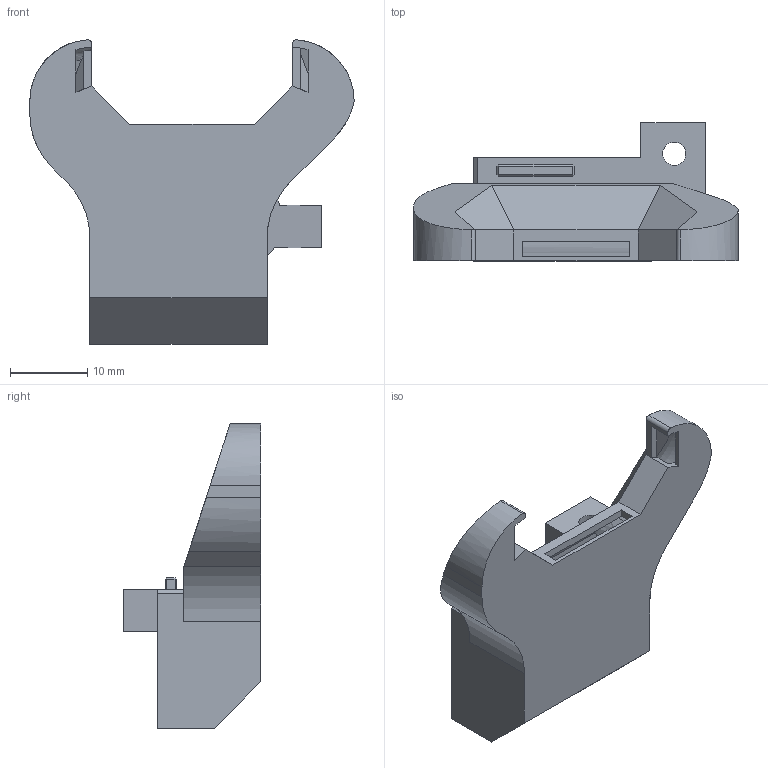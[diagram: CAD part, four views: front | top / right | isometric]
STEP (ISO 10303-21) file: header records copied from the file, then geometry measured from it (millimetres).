
FILE_DESCRIPTION(/* description */ (''),/* implementation_level */ '2;1');
FILE_NAME(/* name */ 'D:/Bondtech AB/Martin Bondéus - Affärsdokument/Product Management/Bondtech/Bondtech.se/downloads/STEP/5015fanshroudLGX-FF/LGX-FF_5015_fan_shroud.step',/* time_stamp */ '2021-07-02T10:19:56+02:00',/* author */ (''),/* organization */ (''),/* preprocessor_version */ 'ST-DEVELOPER v18.1',/* originating_system */ 'Autodesk Translation Framework v10.9.0.1377',/* authorisation */ '');
FILE_SCHEMA (('AUTOMOTIVE_DESIGN { 1 0 10303 214 3 1 1 }'));
Length unit declared in the file: millimetre
Products named in the file (1): LGX Prusa Fan shroud_FDM
Bounding box: 42.1 x 17.9 x 39.48 mm (x, y, z)
Volume: 3558 mm3; surface area: 5627.3 mm2
Topology: 1 solids, 1 shells, 113 faces, 315 edges, 199 vertices
Faces by surface type: plane 88, cylinder 19, bspline 6
Full cylindrical faces by diameter (mm): 3 x1, 5.9 x1
Entity records: 4047 total; most frequent: CARTESIAN_POINT 1114, ORIENTED_EDGE 630, DIRECTION 568, EDGE_CURVE 315, LINE 244, VECTOR 244, VERTEX_POINT 199, AXIS2_PLACEMENT_3D 162
